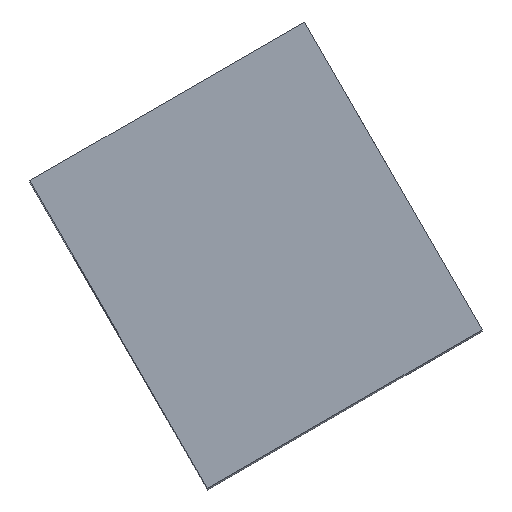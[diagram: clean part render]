
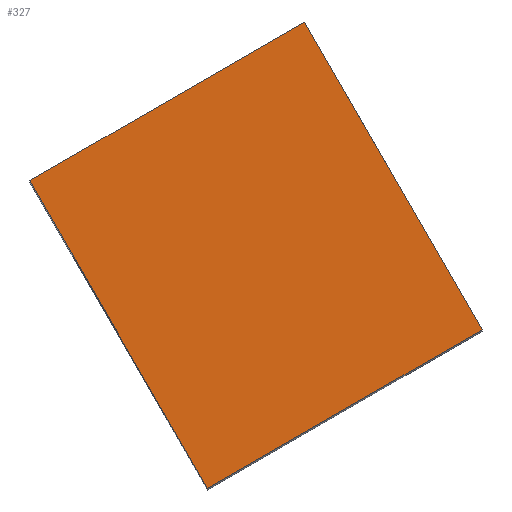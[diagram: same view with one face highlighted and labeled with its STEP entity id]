
A CAD part, top view. The second image highlights one B-rep face of the part: STEP entity #327.
In plain terms, the highlighted planar face has unit normal (0, 0, 1).
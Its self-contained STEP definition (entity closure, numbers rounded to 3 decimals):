
#24 = VERTEX_POINT('',#25);
#25 = CARTESIAN_POINT('',(-4.127,-1.251,6.88));
#32 = PLANE('',#33);
#33 = AXIS2_PLACEMENT_3D('',#34,#35,#36);
#34 = CARTESIAN_POINT('',(-4.127,-1.251,1.72));
#35 = DIRECTION('',(-0.866,-0.5,0.));
#36 = DIRECTION('',(0.,0.,1.));
#44 = PLANE('',#45);
#45 = AXIS2_PLACEMENT_3D('',#46,#47,#48);
#46 = CARTESIAN_POINT('',(-4.127,-1.251,1.72));
#47 = DIRECTION('',(0.5,-0.866,0.));
#48 = DIRECTION('',(0.,0.,1.));
#85 = VERTEX_POINT('',#86);
#86 = CARTESIAN_POINT('',(-3.147,-2.949,6.88));
#100 = PLANE('',#101);
#101 = AXIS2_PLACEMENT_3D('',#102,#103,#104);
#102 = CARTESIAN_POINT('',(-3.147,-2.949,1.72));
#103 = DIRECTION('',(0.5,-0.866,0.));
#104 = DIRECTION('',(0.,0.,1.));
#112 = EDGE_CURVE('',#24,#85,#113,.T.);
#113 = SURFACE_CURVE('',#114,(#118,#125),.PCURVE_S1.);
#114 = LINE('',#115,#116);
#115 = CARTESIAN_POINT('',(-4.127,-1.251,6.88));
#116 = VECTOR('',#117,1.);
#117 = DIRECTION('',(0.5,-0.866,0.));
#118 = PCURVE('',#32,#119);
#119 = DEFINITIONAL_REPRESENTATION('',(#120),#124);
#120 = LINE('',#121,#122);
#121 = CARTESIAN_POINT('',(5.16,0.));
#122 = VECTOR('',#123,1.);
#123 = DIRECTION('',(0.,-1.));
#124 = ( GEOMETRIC_REPRESENTATION_CONTEXT(2) 
PARAMETRIC_REPRESENTATION_CONTEXT() REPRESENTATION_CONTEXT('2D SPACE',''
  ) );
#125 = PCURVE('',#126,#131);
#126 = PLANE('',#127);
#127 = AXIS2_PLACEMENT_3D('',#128,#129,#130);
#128 = CARTESIAN_POINT('',(-4.127,-1.251,6.88));
#129 = DIRECTION('',(0.,0.,1.));
#130 = DIRECTION('',(-0.866,-0.5,0.));
#131 = DEFINITIONAL_REPRESENTATION('',(#132),#136);
#132 = LINE('',#133,#134);
#133 = CARTESIAN_POINT('',(0.,0.));
#134 = VECTOR('',#135,1.);
#135 = DIRECTION('',(0.,1.));
#136 = ( GEOMETRIC_REPRESENTATION_CONTEXT(2) 
PARAMETRIC_REPRESENTATION_CONTEXT() REPRESENTATION_CONTEXT('2D SPACE',''
  ) );
#279 = EDGE_CURVE('',#24,#280,#282,.T.);
#280 = VERTEX_POINT('',#281);
#281 = CARTESIAN_POINT('',(-5.643,-2.126,6.88));
#282 = SURFACE_CURVE('',#283,(#287,#294),.PCURVE_S1.);
#283 = LINE('',#284,#285);
#284 = CARTESIAN_POINT('',(-4.127,-1.251,6.88));
#285 = VECTOR('',#286,1.);
#286 = DIRECTION('',(-0.866,-0.5,0.));
#287 = PCURVE('',#44,#288);
#288 = DEFINITIONAL_REPRESENTATION('',(#289),#293);
#289 = LINE('',#290,#291);
#290 = CARTESIAN_POINT('',(5.16,0.));
#291 = VECTOR('',#292,1.);
#292 = DIRECTION('',(0.,1.));
#293 = ( GEOMETRIC_REPRESENTATION_CONTEXT(2) 
PARAMETRIC_REPRESENTATION_CONTEXT() REPRESENTATION_CONTEXT('2D SPACE',''
  ) );
#294 = PCURVE('',#126,#295);
#295 = DEFINITIONAL_REPRESENTATION('',(#296),#300);
#296 = LINE('',#297,#298);
#297 = CARTESIAN_POINT('',(0.,0.));
#298 = VECTOR('',#299,1.);
#299 = DIRECTION('',(1.,0.));
#300 = ( GEOMETRIC_REPRESENTATION_CONTEXT(2) 
PARAMETRIC_REPRESENTATION_CONTEXT() REPRESENTATION_CONTEXT('2D SPACE',''
  ) );
#316 = PLANE('',#317);
#317 = AXIS2_PLACEMENT_3D('',#318,#319,#320);
#318 = CARTESIAN_POINT('',(-5.643,-2.126,1.72));
#319 = DIRECTION('',(-0.866,-0.5,0.));
#320 = DIRECTION('',(0.,0.,1.));
#327 = ADVANCED_FACE('',(#328),#126,.T.);
#328 = FACE_BOUND('',#329,.T.);
#329 = EDGE_LOOP('',(#330,#331,#332,#355));
#330 = ORIENTED_EDGE('',*,*,#112,.F.);
#331 = ORIENTED_EDGE('',*,*,#279,.T.);
#332 = ORIENTED_EDGE('',*,*,#333,.T.);
#333 = EDGE_CURVE('',#280,#334,#336,.T.);
#334 = VERTEX_POINT('',#335);
#335 = CARTESIAN_POINT('',(-4.663,-3.824,6.88));
#336 = SURFACE_CURVE('',#337,(#341,#348),.PCURVE_S1.);
#337 = LINE('',#338,#339);
#338 = CARTESIAN_POINT('',(-5.643,-2.126,6.88));
#339 = VECTOR('',#340,1.);
#340 = DIRECTION('',(0.5,-0.866,0.));
#341 = PCURVE('',#126,#342);
#342 = DEFINITIONAL_REPRESENTATION('',(#343),#347);
#343 = LINE('',#344,#345);
#344 = CARTESIAN_POINT('',(1.75,0.));
#345 = VECTOR('',#346,1.);
#346 = DIRECTION('',(0.,1.));
#347 = ( GEOMETRIC_REPRESENTATION_CONTEXT(2) 
PARAMETRIC_REPRESENTATION_CONTEXT() REPRESENTATION_CONTEXT('2D SPACE',''
  ) );
#348 = PCURVE('',#316,#349);
#349 = DEFINITIONAL_REPRESENTATION('',(#350),#354);
#350 = LINE('',#351,#352);
#351 = CARTESIAN_POINT('',(5.16,0.));
#352 = VECTOR('',#353,1.);
#353 = DIRECTION('',(0.,-1.));
#354 = ( GEOMETRIC_REPRESENTATION_CONTEXT(2) 
PARAMETRIC_REPRESENTATION_CONTEXT() REPRESENTATION_CONTEXT('2D SPACE',''
  ) );
#355 = ORIENTED_EDGE('',*,*,#356,.F.);
#356 = EDGE_CURVE('',#85,#334,#357,.T.);
#357 = SURFACE_CURVE('',#358,(#362,#369),.PCURVE_S1.);
#358 = LINE('',#359,#360);
#359 = CARTESIAN_POINT('',(-3.147,-2.949,6.88));
#360 = VECTOR('',#361,1.);
#361 = DIRECTION('',(-0.866,-0.5,0.));
#362 = PCURVE('',#126,#363);
#363 = DEFINITIONAL_REPRESENTATION('',(#364),#368);
#364 = LINE('',#365,#366);
#365 = CARTESIAN_POINT('',(0.,1.96));
#366 = VECTOR('',#367,1.);
#367 = DIRECTION('',(1.,0.));
#368 = ( GEOMETRIC_REPRESENTATION_CONTEXT(2) 
PARAMETRIC_REPRESENTATION_CONTEXT() REPRESENTATION_CONTEXT('2D SPACE',''
  ) );
#369 = PCURVE('',#100,#370);
#370 = DEFINITIONAL_REPRESENTATION('',(#371),#375);
#371 = LINE('',#372,#373);
#372 = CARTESIAN_POINT('',(5.16,0.));
#373 = VECTOR('',#374,1.);
#374 = DIRECTION('',(0.,1.));
#375 = ( GEOMETRIC_REPRESENTATION_CONTEXT(2) 
PARAMETRIC_REPRESENTATION_CONTEXT() REPRESENTATION_CONTEXT('2D SPACE',''
  ) );
